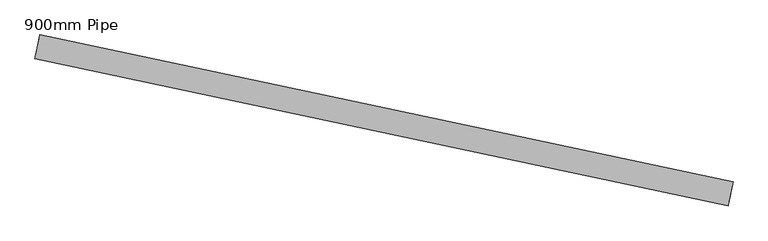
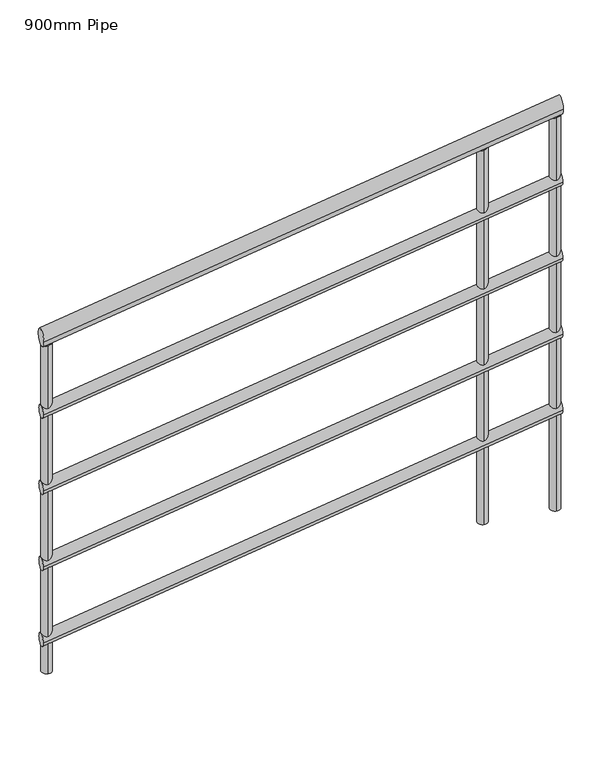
"""IFC4 building model written with IfcOpenShell, lengths in millimetres: railing geometry, 900mm Pipe."""

from ifc_helpers import new_model, si_unit, frame, origin, place, context, project, spatial, circle_curve, ellipse_curve, source, transform, mapped, element, save
from ifc_brep_helpers import plane_surface, cylinder_surface, advanced_brep


def railing_900mm_pipe_d280c50c(model_context):
    return source(origin(), model_context, "Body", "AdvancedBrep", [
        advanced_brep(
        [(942699.2070874, 33.6588296, 8558.386247), (942690.8792704, -5.4646603, 8558.386247), (943850.2412329, -211.3500323, 8916.9744823), (943841.9134159, -250.4735223, 8916.9744823)],
        [
            (0, 1, ellipse_curve(frame((942695.0431789, 14.0970846, 8558.386247), z_axis=(-0.9780872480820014, 0.20819542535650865, 0.0), x_axis=(0.0, 0.0, -1.0)), 20.9078706, 20.0)),
            (1, 0, ellipse_curve(frame((942695.0431789, 14.0970846, 8558.386247), z_axis=(-0.9780872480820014, 0.20819542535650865, 0.0), x_axis=(0.0, 0.0, -1.0)), 20.9078706, 20.0)),
            (2, 3, ellipse_curve(frame((943846.0773244, -230.9117773, 8916.9744823), z_axis=(0.9780872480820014, -0.20819542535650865, 0.0), x_axis=(0.0, 0.0, -1.0)), 20.9078706, 20.0)),
            (3, 2, ellipse_curve(frame((943846.0773244, -230.9117773, 8916.9744823), z_axis=(0.9780872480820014, -0.20819542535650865, 0.0), x_axis=(0.0, 0.0, -1.0)), 20.9078706, 20.0)),
            (0, 2),
            (3, 1),
        ],
        [
            plane_surface(frame((942695.0431789, 14.0970846, 8579.2941176), z_axis=(-0.9780872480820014, 0.20819542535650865, 0.0), x_axis=(0.20819542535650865, 0.9780872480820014, 0.0))),
            plane_surface(frame((943846.0773244, -230.9117773, 8937.8823529), z_axis=(0.9780872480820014, -0.20819542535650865, 0.0), x_axis=(0.20819542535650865, 0.9780872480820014, 0.0))),
            cylinder_surface(frame((942700.7449951, 12.8833974, 8560.1625663), z_axis=(-0.9356163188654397, 0.1991550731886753, -0.29147789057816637), x_axis=(-0.20819542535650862, -0.9780872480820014, 0.0)), 20.0),
        ],
        [
            (0, [[1, 2]]),
            (1, [[3, 4]]),
            (2, [[-1, 5, -4, 6]]),
            (2, [[-2, -6, -3, -5]]),
        ],
    ),
        advanced_brep(
        [(942698.1661103, 28.7683933, 8363.6132147), (942691.9202475, -0.5742241, 8363.6132147), (943849.2002557, -216.2404686, 8722.20145), (943842.954393, -245.583086, 8722.20145)],
        [
            (0, 1, ellipse_curve(frame((942695.0431789, 14.0970846, 8363.6132147), z_axis=(-0.9780872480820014, 0.20819542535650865, 0.0), x_axis=(0.0, 0.0, -1.0)), 15.680903, 15.0)),
            (1, 0, ellipse_curve(frame((942695.0431789, 14.0970846, 8363.6132147), z_axis=(-0.9780872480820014, 0.20819542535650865, 0.0), x_axis=(0.0, 0.0, -1.0)), 15.680903, 15.0)),
            (2, 3, ellipse_curve(frame((943846.0773244, -230.9117773, 8722.20145), z_axis=(0.9780872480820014, -0.20819542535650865, 0.0), x_axis=(0.0, 0.0, -1.0)), 15.680903, 15.0)),
            (3, 2, ellipse_curve(frame((943846.0773244, -230.9117773, 8722.20145), z_axis=(0.9780872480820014, -0.20819542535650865, 0.0), x_axis=(0.0, 0.0, -1.0)), 15.680903, 15.0)),
            (0, 2),
            (3, 1),
        ],
        [
            plane_surface(frame((942695.0431789, 14.0970846, 8379.2941176), z_axis=(-0.9780872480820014, 0.20819542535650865, 0.0), x_axis=(0.20819542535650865, 0.9780872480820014, 0.0))),
            plane_surface(frame((943846.0773244, -230.9117773, 8737.8823529), z_axis=(0.9780872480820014, -0.20819542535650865, 0.0), x_axis=(0.20819542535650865, 0.9780872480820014, 0.0))),
            cylinder_surface(frame((942699.319541, 13.1868192, 8364.9454542), z_axis=(-0.9356163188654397, 0.1991550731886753, -0.29147789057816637), x_axis=(-0.20819542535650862, -0.9780872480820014, 0.0)), 15.0),
        ],
        [
            (0, [[1, 2]]),
            (1, [[3, 4]]),
            (2, [[-1, 5, -4, 6]]),
            (2, [[-2, -6, -3, -5]]),
        ],
    ),
        advanced_brep(
        [(942698.1661103, 28.7683933, 8163.6132147), (942691.9202475, -0.5742241, 8163.6132147), (943849.2002557, -216.2404686, 8522.20145), (943842.954393, -245.583086, 8522.20145)],
        [
            (0, 1, ellipse_curve(frame((942695.0431789, 14.0970846, 8163.6132147), z_axis=(-0.9780872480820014, 0.20819542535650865, 0.0), x_axis=(0.0, 0.0, -1.0)), 15.680903, 15.0)),
            (1, 0, ellipse_curve(frame((942695.0431789, 14.0970846, 8163.6132147), z_axis=(-0.9780872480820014, 0.20819542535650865, 0.0), x_axis=(0.0, 0.0, -1.0)), 15.680903, 15.0)),
            (2, 3, ellipse_curve(frame((943846.0773244, -230.9117773, 8522.20145), z_axis=(0.9780872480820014, -0.20819542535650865, 0.0), x_axis=(0.0, 0.0, -1.0)), 15.680903, 15.0)),
            (3, 2, ellipse_curve(frame((943846.0773244, -230.9117773, 8522.20145), z_axis=(0.9780872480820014, -0.20819542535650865, 0.0), x_axis=(0.0, 0.0, -1.0)), 15.680903, 15.0)),
            (0, 2),
            (3, 1),
        ],
        [
            plane_surface(frame((942695.0431789, 14.0970846, 8179.2941176), z_axis=(-0.9780872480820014, 0.20819542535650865, 0.0), x_axis=(0.20819542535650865, 0.9780872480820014, 0.0))),
            plane_surface(frame((943846.0773244, -230.9117773, 8537.8823529), z_axis=(0.9780872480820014, -0.20819542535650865, 0.0), x_axis=(0.20819542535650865, 0.9780872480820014, 0.0))),
            cylinder_surface(frame((942699.319541, 13.1868192, 8164.9454542), z_axis=(-0.9356163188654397, 0.1991550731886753, -0.29147789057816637), x_axis=(-0.20819542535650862, -0.9780872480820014, 0.0)), 15.0),
        ],
        [
            (0, [[1, 2]]),
            (1, [[3, 4]]),
            (2, [[-1, 5, -4, 6]]),
            (2, [[-2, -6, -3, -5]]),
        ],
    ),
        advanced_brep(
        [(942698.1661103, 28.7683933, 7963.6132147), (942691.9202475, -0.5742241, 7963.6132147), (943849.2002557, -216.2404686, 8322.20145), (943842.954393, -245.583086, 8322.20145)],
        [
            (0, 1, ellipse_curve(frame((942695.0431789, 14.0970846, 7963.6132147), z_axis=(-0.9780872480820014, 0.20819542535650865, 0.0), x_axis=(0.0, 0.0, -1.0)), 15.680903, 15.0)),
            (1, 0, ellipse_curve(frame((942695.0431789, 14.0970846, 7963.6132147), z_axis=(-0.9780872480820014, 0.20819542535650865, 0.0), x_axis=(0.0, 0.0, -1.0)), 15.680903, 15.0)),
            (2, 3, ellipse_curve(frame((943846.0773244, -230.9117773, 8322.20145), z_axis=(0.9780872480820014, -0.20819542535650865, 0.0), x_axis=(0.0, 0.0, -1.0)), 15.680903, 15.0)),
            (3, 2, ellipse_curve(frame((943846.0773244, -230.9117773, 8322.20145), z_axis=(0.9780872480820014, -0.20819542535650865, 0.0), x_axis=(0.0, 0.0, -1.0)), 15.680903, 15.0)),
            (0, 2),
            (3, 1),
        ],
        [
            plane_surface(frame((942695.0431789, 14.0970846, 7979.2941176), z_axis=(-0.9780872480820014, 0.20819542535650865, 0.0), x_axis=(0.20819542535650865, 0.9780872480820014, 0.0))),
            plane_surface(frame((943846.0773244, -230.9117773, 8337.8823529), z_axis=(0.9780872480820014, -0.20819542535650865, 0.0), x_axis=(0.20819542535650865, 0.9780872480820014, 0.0))),
            cylinder_surface(frame((942699.319541, 13.1868192, 7964.9454542), z_axis=(-0.9356163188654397, 0.1991550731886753, -0.29147789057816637), x_axis=(-0.20819542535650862, -0.9780872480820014, 0.0)), 15.0),
        ],
        [
            (0, [[1, 2]]),
            (1, [[3, 4]]),
            (2, [[-1, 5, -4, 6]]),
            (2, [[-2, -6, -3, -5]]),
        ],
    ),
        advanced_brep(
        [(942698.1661103, 28.7683933, 7763.6132147), (942691.9202475, -0.5742241, 7763.6132147), (943849.2002557, -216.2404686, 8122.20145), (943842.954393, -245.583086, 8122.20145)],
        [
            (0, 1, ellipse_curve(frame((942695.0431789, 14.0970846, 7763.6132147), z_axis=(-0.9780872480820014, 0.20819542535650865, 0.0), x_axis=(0.0, 0.0, -1.0)), 15.680903, 15.0)),
            (1, 0, ellipse_curve(frame((942695.0431789, 14.0970846, 7763.6132147), z_axis=(-0.9780872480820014, 0.20819542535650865, 0.0), x_axis=(0.0, 0.0, -1.0)), 15.680903, 15.0)),
            (2, 3, ellipse_curve(frame((943846.0773244, -230.9117773, 8122.20145), z_axis=(0.9780872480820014, -0.20819542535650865, 0.0), x_axis=(0.0, 0.0, -1.0)), 15.680903, 15.0)),
            (3, 2, ellipse_curve(frame((943846.0773244, -230.9117773, 8122.20145), z_axis=(0.9780872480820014, -0.20819542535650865, 0.0), x_axis=(0.0, 0.0, -1.0)), 15.680903, 15.0)),
            (0, 2),
            (3, 1),
        ],
        [
            plane_surface(frame((942695.0431789, 14.0970846, 7779.2941176), z_axis=(-0.9780872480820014, 0.20819542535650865, 0.0), x_axis=(0.20819542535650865, 0.9780872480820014, 0.0))),
            plane_surface(frame((943846.0773244, -230.9117773, 8137.8823529), z_axis=(0.9780872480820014, -0.20819542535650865, 0.0), x_axis=(0.20819542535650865, 0.9780872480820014, 0.0))),
            cylinder_surface(frame((942699.319541, 13.1868192, 7764.9454542), z_axis=(-0.9356163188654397, 0.1991550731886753, -0.29147789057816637), x_axis=(-0.20819542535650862, -0.9780872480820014, 0.0)), 15.0),
        ],
        [
            (0, [[1, 2]]),
            (1, [[3, 4]]),
            (2, [[-1, 5, -4, 6]]),
            (2, [[-2, -6, -3, -5]]),
        ],
    ),
        advanced_brep(
        [(943670.5279842, -206.3244313, 8842.1874779), (943670.5279842, -206.3244313, 7858.5882353), (943675.7328698, -181.8722501, 7858.5882353), (943675.7328698, -181.8722501, 8842.1874779)],
        [
            (0, 1),
            (1, 2, circle_curve(frame((943673.130427, -194.0983407, 7858.5882353), z_axis=(0.0, 0.0, 1.0), x_axis=(0.20819542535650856, 0.9780872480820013, 0.0)), 12.5)),
            (2, 3),
            (3, 0, ellipse_curve(frame((943673.130427, -194.0983407, 8842.1874779), z_axis=(0.28509080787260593, -0.06068436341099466, -0.9565775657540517), x_axis=(0.93561631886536, -0.19915507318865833, 0.29147789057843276)), 13.0674191, 12.5)),
            (0, 3, ellipse_curve(frame((943673.130427, -194.0983407, 8842.1874779), z_axis=(0.28509080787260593, -0.06068436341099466, -0.9565775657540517), x_axis=(0.93561631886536, -0.19915507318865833, 0.29147789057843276)), 13.0674191, 12.5)),
            (2, 1, circle_curve(frame((943673.130427, -194.0983407, 7858.5882353), z_axis=(0.0, 0.0, 1.0), x_axis=(0.20819542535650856, 0.9780872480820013, 0.0)), 12.5)),
        ],
        [
            cylinder_surface(frame((943673.130427, -194.0983407, 7758.5882353), z_axis=(0.0, 0.0, 1.0), x_axis=(0.20819542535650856, 0.9780872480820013, 0.0)), 12.5),
            plane_surface(frame((943702.7874938, -174.8510452, 8849.8052054), z_axis=(-0.28509080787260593, 0.06068436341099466, 0.9565775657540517), x_axis=(-0.20819542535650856, -0.9780872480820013, 0.0))),
            plane_surface(frame((943653.8831314, -164.4412739, 7858.5882353), z_axis=(0.0, 0.0, -1.0), x_axis=(-0.20819542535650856, -0.9780872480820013, 0.0))),
        ],
        [
            (0, [[1, 2, 3, 4]]),
            (0, [[-1, 5, -3, 6]]),
            (1, [[-4, -5]]),
            (2, [[-2, -6]]),
        ],
    ),
        advanced_brep(
        [(943831.2487909, -240.5354251, 8892.2577479), (943831.2487909, -240.5354251, 7858.5882353), (943836.4536766, -216.0832439, 7858.5882353), (943836.4536766, -216.0832439, 8892.2577479)],
        [
            (0, 1),
            (1, 2, circle_curve(frame((943833.8512338, -228.3093345, 7858.5882353), z_axis=(0.0, 0.0, 1.0), x_axis=(0.20819542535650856, 0.9780872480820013, 0.0)), 12.5)),
            (2, 3),
            (3, 0, ellipse_curve(frame((943833.8512338, -228.3093345, 8892.2577479), z_axis=(0.2850908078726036, -0.06068436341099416, -0.9565775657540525), x_axis=(0.9356163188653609, -0.1991550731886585, 0.2914778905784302)), 13.0674191, 12.5)),
            (0, 3, ellipse_curve(frame((943833.8512338, -228.3093345, 8892.2577479), z_axis=(0.2850908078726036, -0.06068436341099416, -0.9565775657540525), x_axis=(0.9356163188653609, -0.1991550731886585, 0.2914778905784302)), 13.0674191, 12.5)),
            (2, 1, circle_curve(frame((943833.8512338, -228.3093345, 7858.5882353), z_axis=(0.0, 0.0, 1.0), x_axis=(0.20819542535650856, 0.9780872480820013, 0.0)), 12.5)),
        ],
        [
            cylinder_surface(frame((943833.8512338, -228.3093345, 7758.5882353), z_axis=(0.0, 0.0, 1.0), x_axis=(0.20819542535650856, 0.9780872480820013, 0.0)), 12.5),
            plane_surface(frame((943863.5083006, -209.0620389, 8899.8754754), z_axis=(-0.2850908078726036, 0.06068436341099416, 0.9565775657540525), x_axis=(-0.20819542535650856, -0.9780872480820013, 0.0))),
            plane_surface(frame((943814.6039382, -198.6522676, 7858.5882353), z_axis=(0.0, 0.0, -1.0), x_axis=(-0.20819542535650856, -0.9780872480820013, 0.0))),
        ],
        [
            (0, [[1, 2, 3, 4]]),
            (0, [[-1, 5, -3, 6]]),
            (1, [[-4, -5]]),
            (2, [[-2, -6]]),
        ],
    ),
        advanced_brep(
        [(942704.6668267, -0.7314488, 8541.2872401), (942704.6668267, -0.7314488, 7679.2941176), (942709.8717123, 23.7207324, 7679.2941176), (942709.8717123, 23.7207324, 8541.2872401)],
        [
            (0, 1),
            (1, 2, circle_curve(frame((942707.2692695, 11.4946418, 7679.2941176), z_axis=(0.0, 0.0, 1.0), x_axis=(0.20819542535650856, 0.9780872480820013, 0.0)), 12.5)),
            (2, 3),
            (3, 0, ellipse_curve(frame((942707.2692695, 11.4946418, 8541.2872401), z_axis=(0.28509080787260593, -0.06068436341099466, -0.9565775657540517), x_axis=(0.93561631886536, -0.19915507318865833, 0.29147789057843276)), 13.0674191, 12.5)),
            (0, 3, ellipse_curve(frame((942707.2692695, 11.4946418, 8541.2872401), z_axis=(0.28509080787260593, -0.06068436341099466, -0.9565775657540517), x_axis=(0.93561631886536, -0.19915507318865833, 0.29147789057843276)), 13.0674191, 12.5)),
            (2, 1, circle_curve(frame((942707.2692695, 11.4946418, 7679.2941176), z_axis=(0.0, 0.0, 1.0), x_axis=(0.20819542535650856, 0.9780872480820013, 0.0)), 12.5)),
        ],
        [
            cylinder_surface(frame((942707.2692695, 11.4946418, 7579.2941176), z_axis=(0.0, 0.0, 1.0), x_axis=(0.20819542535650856, 0.9780872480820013, 0.0)), 12.5),
            plane_surface(frame((942736.9263364, 30.7419374, 8548.9049677), z_axis=(-0.28509080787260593, 0.06068436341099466, 0.9565775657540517), x_axis=(-0.20819542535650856, -0.9780872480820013, 0.0))),
            plane_surface(frame((942688.021974, 41.1517086, 7679.2941176), z_axis=(0.0, 0.0, -1.0), x_axis=(-0.20819542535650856, -0.9780872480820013, 0.0))),
        ],
        [
            (0, [[1, 2, 3, 4]]),
            (0, [[-1, 5, -3, 6]]),
            (1, [[-4, -5]]),
            (2, [[-2, -6]]),
        ],
    ),
    ])


if __name__ == "__main__":
    model = new_model("IFC4")
    model_context = context("Model", 3, world=origin())
    ifc_project = project(units=[si_unit("LENGTHUNIT", "METRE", prefix="MILLI")], contexts=[model_context])
    site = spatial("IfcSite", under=ifc_project)
    building = spatial("IfcBuilding", under=site)
    placement = place(None, origin())
    railing_900mm_pipe_shape = railing_900mm_pipe_d280c50c(model_context)
    element("IfcRailing", 1, ObjectType="900mm Pipe", at=placement, inside=building, context=model_context, shape_type="MappedRepresentation", body=[
        mapped(railing_900mm_pipe_shape, transform((0.0, 0.0, 0.0), x_axis=(1.0, 0.0, 0.0), y_axis=(0.0, 1.0, 0.0), z_axis=(0.0, 0.0, 1.0))),
    ])
    save(model, "model.ifc")
